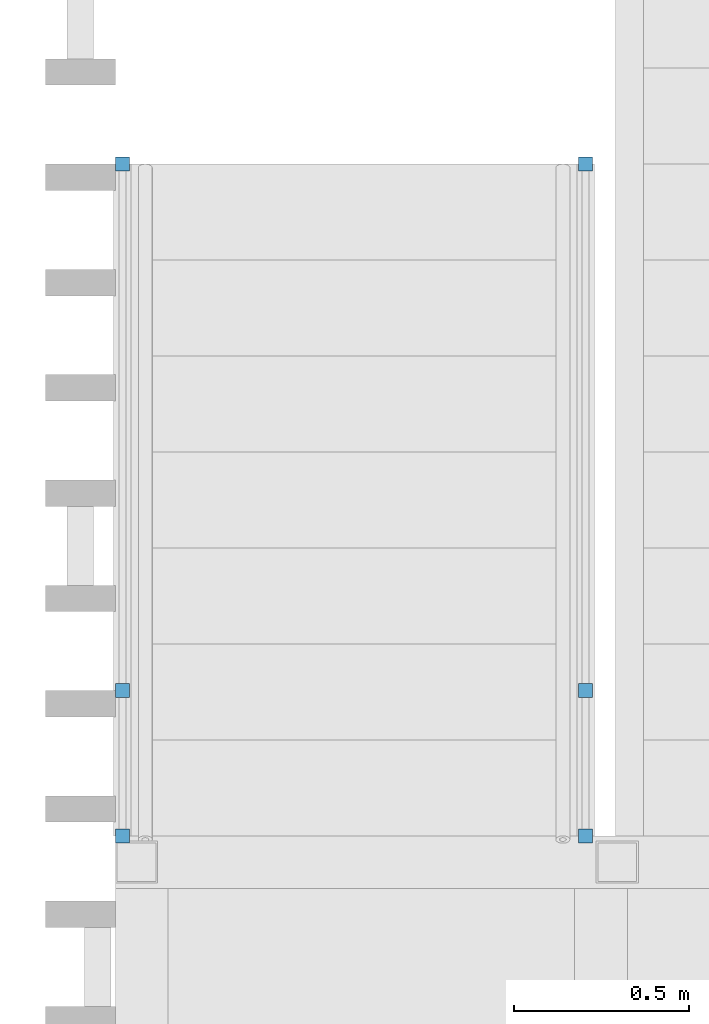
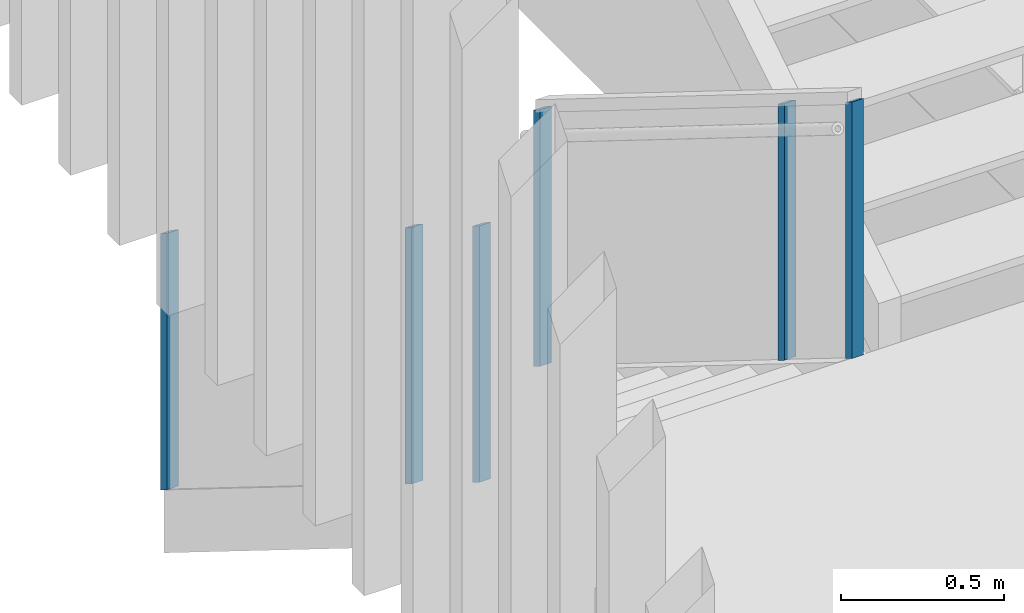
# One storey, part 214 of 301: 6 building element parts, 2 elements without a shape of their own.
"""IFC2X3 building model written with IfcOpenShell, lengths in millimetres."""

from ifc_helpers import new_model, entity, si_unit, converted_unit, derived_unit, money_unit, direction, frame, origin_with_axes, place, context, subcontext, project, spatial, faceted_brep, material, type_object, element, aggregate, save


model = new_model("IFC2X3")

# Units and contexts
model_context = context("Model", 3, precision=0.01, world=origin_with_axes(), true_north=direction((0.0, 1.0)))
body_context = subcontext(model_context, "Body", "Model", "MODEL_VIEW")
ifc_project = project(units=[si_unit("LENGTHUNIT", "METRE", prefix="MILLI"), si_unit("AREAUNIT", "SQUARE_METRE"), si_unit("VOLUMEUNIT", "CUBIC_METRE"), converted_unit("PLANEANGLEUNIT", "DEGREE", entity("IfcPlaneAngleMeasure", 0.0174532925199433), si_unit("PLANEANGLEUNIT", "RADIAN"), dimensions=[0, 0, 0, 0, 0, 0, 0]), money_unit("EUR"), converted_unit("TIMEUNIT", "Year", entity("IfcTimeMeasure", 31557600.0), si_unit("TIMEUNIT", "SECOND"), dimensions=[0, 0, 1, 0, 0, 0, 0]), si_unit("MASSUNIT", "GRAM", prefix="KILO"), si_unit("THERMODYNAMICTEMPERATUREUNIT", "DEGREE_CELSIUS"), si_unit("LUMINOUSINTENSITYUNIT", "LUMEN"), si_unit("ENERGYUNIT", "JOULE", prefix="MEGA"), derived_unit("THERMALCONDUCTANCEUNIT", [(si_unit("POWERUNIT", "WATT"), 1), (si_unit("LENGTHUNIT", "METRE"), -1), (si_unit("THERMODYNAMICTEMPERATUREUNIT", "KELVIN"), -1)]), derived_unit("SPECIFICHEATCAPACITYUNIT", [(si_unit("ENERGYUNIT", "JOULE"), 1), (si_unit("MASSUNIT", "GRAM", prefix="KILO"), -1), (si_unit("THERMODYNAMICTEMPERATUREUNIT", "KELVIN"), -1)]), derived_unit("MASSDENSITYUNIT", [(si_unit("MASSUNIT", "GRAM", prefix="KILO"), 1), (si_unit("VOLUMEUNIT", "CUBIC_METRE"), -1)])], contexts=[model_context])

# Site, building, storey
site_placement = place(None, frame((0.0, 0.0, 8650.0), z_axis=(0.0, 0.0, 1.0), x_axis=(1.0, 0.0, 0.0)))
site = spatial("IfcSite", under=ifc_project, at=site_placement, Name="43301:001:0844", CompositionType="ELEMENT")
building_placement = place(site_placement, origin_with_axes())
building = spatial("IfcBuilding", under=site, at=building_placement, Name="Kuressaare Ametikooli tuulikute mehaanikute õppekorpus", CompositionType="ELEMENT")
storey_placement = place(building_placement, origin_with_axes())
storey = spatial("IfcBuildingStorey", under=building, at=storey_placement, Name="1.korrus", CompositionType="ELEMENT", Elevation=0.0)

# Railing, building element parts
railing_type = type_object("IfcRailingType", Name="Railing Type", PredefinedType="NOTDEFINED")
railing_1_placement = place(storey_placement, frame((86406.22662386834, 14177.91808387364, -4.999999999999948), z_axis=(0.0, 0.0, 1.0), x_axis=(1.0, 0.0, 0.0)))
railing_1 = element("IfcRailing", 1, at=railing_1_placement, inside=storey, type_object=railing_type, Name="Piire", PredefinedType="NOTDEFINED")
ifc_material_1 = material(Name="Teras - roostevaba")
building_element_part_1_placement = place(railing_1_placement, origin_with_axes())
building_element_part_1 = element("IfcBuildingElementPart", 2, at=building_element_part_1_placement, material=ifc_material_1, Name="Teras - roostevaba", context=body_context, shape_type="Brep", body=[
    faceted_brep([(-39.99999999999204, -19.99999999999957, 12.43417203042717), (0.0, -19.99999999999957, 12.43417203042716), (0.0, -19.99999999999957, 972.434172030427), (-39.99999999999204, -19.99999999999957, 972.434172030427), (-39.99999999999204, 19.99999999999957, -12.43417203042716), (0.0, 19.99999999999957, -12.43417203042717), (0.0, 19.99999999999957, 947.5658279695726), (-39.99999999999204, 19.99999999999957, 947.5658279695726)], [[[0, 1, 2, 3]], [[0, 4, 5, 1]], [[1, 5, 6, 2]], [[3, 2, 6, 7]], [[4, 0, 3, 7]], [[5, 4, 7, 6]]]),
])
building_element_part_2_placement = place(railing_1_placement, origin_with_axes())
building_element_part_2 = element("IfcBuildingElementPart", 3, at=building_element_part_2_placement, material=ifc_material_1, Name="Teras - roostevaba", context=body_context, shape_type="Brep", body=[
    faceted_brep([(-39.99999999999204, -1934.08, 1202.434172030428), (0.0, -1934.08, 1202.434172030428), (0.0, -1934.08, 2162.434172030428), (-39.99999999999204, -1934.08, 2162.434172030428), (-39.99999999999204, -1894.080000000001, 1177.565827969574), (0.0, -1894.080000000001, 1177.565827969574), (0.0, -1894.080000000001, 2137.565827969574), (-39.99999999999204, -1894.080000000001, 2137.565827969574)], [[[0, 1, 2, 3]], [[0, 4, 5, 1]], [[1, 5, 6, 2]], [[3, 2, 6, 7]], [[4, 0, 3, 7]], [[5, 4, 7, 6]]]),
])
ifc_material_2 = material(Name="Steel - Structural")
building_element_part_3_placement = place(railing_1_placement, origin_with_axes())
building_element_part_3 = element("IfcBuildingElementPart", 4, at=building_element_part_3_placement, material=ifc_material_2, Name="Steel - Structural", context=body_context, shape_type="Brep", body=[
    faceted_brep([(-39.99999999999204, -1520.0, 944.9970743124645), (0.0, -1520.0, 944.9970743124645), (0.0, -1520.0, 1904.997074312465), (-39.99999999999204, -1520.0, 1904.997074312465), (-39.99999999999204, -1480.0, 920.1287302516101), (0.0, -1480.0, 920.1287302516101), (0.0, -1480.0, 1880.12873025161), (-39.99999999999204, -1480.0, 1880.12873025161)], [[[0, 1, 2, 3]], [[0, 4, 5, 1]], [[1, 5, 6, 2]], [[3, 2, 6, 7]], [[4, 0, 3, 7]], [[5, 4, 7, 6]]]),
])
aggregate(railing_1, [building_element_part_1, building_element_part_2, building_element_part_3])

railing_2_placement = place(storey_placement, frame((84966.22662386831, 14177.91808387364, -4.999999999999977), z_axis=(0.0, 0.0, 1.0), x_axis=(-1.0, 0.0, 0.0)))
railing_2 = element("IfcRailing", 5, at=railing_2_placement, inside=storey, type_object=railing_type, Name="Piire", PredefinedType="NOTDEFINED")
building_element_part_4_placement = place(railing_2_placement, origin_with_axes())
building_element_part_4 = element("IfcBuildingElementPart", 6, at=building_element_part_4_placement, material=ifc_material_1, Name="Teras - roostevaba", context=body_context, shape_type="Brep", body=[
    faceted_brep([(-120.0000000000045, 19.99999999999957, 12.42031189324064), (-120.0000000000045, 19.99999999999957, 972.4203118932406), (-80.0000000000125, 19.99999999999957, 972.4203118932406), (-80.0000000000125, 19.99999999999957, 12.42031189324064), (-120.0000000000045, -19.99999999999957, -12.42031189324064), (-120.0000000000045, -19.99999999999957, 947.5796881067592), (-80.0000000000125, -19.99999999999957, 947.5796881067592), (-80.0000000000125, -19.99999999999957, -12.42031189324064)], [[[0, 1, 2, 3]], [[4, 5, 1, 0]], [[1, 5, 6, 2]], [[3, 2, 6, 7]], [[0, 3, 7, 4]], [[7, 6, 5, 4]]]),
])
building_element_part_5_placement = place(railing_2_placement, origin_with_axes())
building_element_part_5 = element("IfcBuildingElementPart", 7, at=building_element_part_5_placement, material=ifc_material_1, Name="Teras - roostevaba", context=body_context, shape_type="Brep", body=[
    faceted_brep([(-120.0000000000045, 1934.080014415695, 1201.093850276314), (-120.0000000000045, 1934.080014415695, 2161.093850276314), (-80.0000000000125, 1934.080014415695, 2161.093850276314), (-80.0000000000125, 1934.080014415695, 1201.093850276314), (-120.0000000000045, 1894.080014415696, 1176.253226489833), (-120.0000000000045, 1894.080014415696, 2136.253226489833), (-80.0000000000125, 1894.080014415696, 2136.253226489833), (-80.0000000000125, 1894.080014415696, 1176.253226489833)], [[[0, 1, 2, 3]], [[4, 5, 1, 0]], [[1, 5, 6, 2]], [[3, 2, 6, 7]], [[0, 3, 7, 4]], [[7, 6, 5, 4]]]),
])
building_element_part_6_placement = place(railing_2_placement, origin_with_axes())
building_element_part_6 = element("IfcBuildingElementPart", 8, at=building_element_part_6_placement, material=ifc_material_2, Name="Steel - Structural", context=body_context, shape_type="Brep", body=[
    faceted_brep([(-120.0000000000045, 1520.0, 943.9437038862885), (-120.0000000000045, 1520.0, 1903.943703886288), (-80.0000000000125, 1520.0, 1903.943703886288), (-80.0000000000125, 1520.0, 943.9437038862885), (-120.0000000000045, 1480.0, 919.1030800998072), (-120.0000000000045, 1480.0, 1879.103080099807), (-80.0000000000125, 1480.0, 1879.103080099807), (-80.0000000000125, 1480.0, 919.1030800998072)], [[[0, 1, 2, 3]], [[4, 5, 1, 0]], [[1, 5, 6, 2]], [[3, 2, 6, 7]], [[0, 3, 7, 4]], [[7, 6, 5, 4]]]),
])
aggregate(railing_2, [building_element_part_4, building_element_part_5, building_element_part_6])

save(model, "model.ifc")
